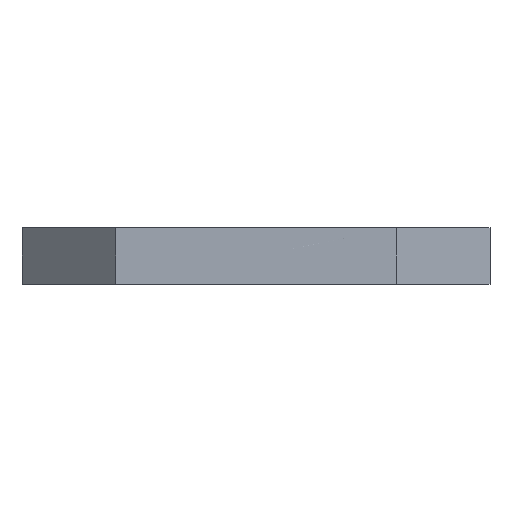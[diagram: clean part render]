
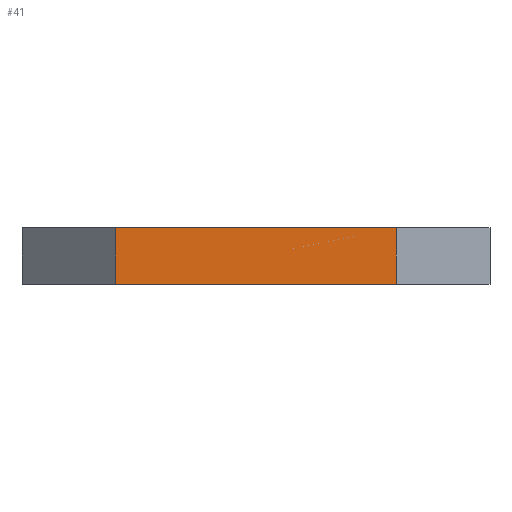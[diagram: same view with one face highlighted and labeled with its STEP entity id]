
A CAD part, front view. The second image highlights one B-rep face of the part: STEP entity #41.
In plain terms, the highlighted planar face has unit normal (0, -1, 0).
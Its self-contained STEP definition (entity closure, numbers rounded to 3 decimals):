
#6 = EDGE_CURVE ( 'NONE', #2655, #2691, #841, .T. ) ;
#7 = EDGE_CURVE ( 'NONE', #2645, #2690, #837, .T. ) ;
#8 = EDGE_LOOP ( 'NONE', ( #31, #38, #23, #21 ) ) ;
#21 = ORIENTED_EDGE ( 'NONE', *, *, #6, .T. ) ;
#23 = ORIENTED_EDGE ( 'NONE', *, *, #2659, .F. ) ;
#31 = ORIENTED_EDGE ( 'NONE', *, *, #2686, .T. ) ;
#38 = ORIENTED_EDGE ( 'NONE', *, *, #7, .F. ) ;
#41 = ADVANCED_FACE ( 'NONE', ( #817 ), #815, .F. ) ;
#776 = CARTESIAN_POINT ( 'NONE',  ( -30., 0., 6. ) ) ;
#785 = CARTESIAN_POINT ( 'NONE',  ( 30., 0., 6. ) ) ;
#815 = PLANE ( 'NONE',  #864 ) ;
#817 = FACE_OUTER_BOUND ( 'NONE', #8, .T. ) ;
#835 = DIRECTION ( 'NONE',  ( 0., 0., -1. ) ) ;
#836 = VECTOR ( 'NONE', #835, 1000. ) ;
#837 = LINE ( 'NONE', #785, #836 ) ;
#839 = DIRECTION ( 'NONE',  ( 0., 0., -1. ) ) ;
#840 = VECTOR ( 'NONE', #839, 1000. ) ;
#841 = LINE ( 'NONE', #776, #840 ) ;
#861 = DIRECTION ( 'NONE',  ( 0., 0., 1. ) ) ;
#862 = DIRECTION ( 'NONE',  ( 0., 1., 0. ) ) ;
#863 = CARTESIAN_POINT ( 'NONE',  ( -30., 0., 6. ) ) ;
#864 = AXIS2_PLACEMENT_3D ( 'NONE', #863, #862, #861 ) ;
#2239 = CARTESIAN_POINT ( 'NONE',  ( -30., 0., 6. ) ) ;
#2263 = CARTESIAN_POINT ( 'NONE',  ( 30., 0., 6. ) ) ;
#2273 = DIRECTION ( 'NONE',  ( 1., 0., 0. ) ) ;
#2274 = VECTOR ( 'NONE', #2273, 1000. ) ;
#2279 = CARTESIAN_POINT ( 'NONE',  ( -30., 0., 6. ) ) ;
#2280 = LINE ( 'NONE', #2279, #2274 ) ;
#2295 = CARTESIAN_POINT ( 'NONE',  ( 30., 0., -6. ) ) ;
#2296 = DIRECTION ( 'NONE',  ( 1., 0., 0. ) ) ;
#2297 = VECTOR ( 'NONE', #2296, 1000. ) ;
#2304 = CARTESIAN_POINT ( 'NONE',  ( -30., 0., -6. ) ) ;
#2305 = LINE ( 'NONE', #2304, #2297 ) ;
#2353 = CARTESIAN_POINT ( 'NONE',  ( -30., 0., -6. ) ) ;
#2645 = VERTEX_POINT ( 'NONE', #2263 ) ;
#2655 = VERTEX_POINT ( 'NONE', #2239 ) ;
#2659 = EDGE_CURVE ( 'NONE', #2655, #2645, #2280, .T. ) ;
#2686 = EDGE_CURVE ( 'NONE', #2691, #2690, #2305, .T. ) ;
#2690 = VERTEX_POINT ( 'NONE', #2295 ) ;
#2691 = VERTEX_POINT ( 'NONE', #2353 ) ;
